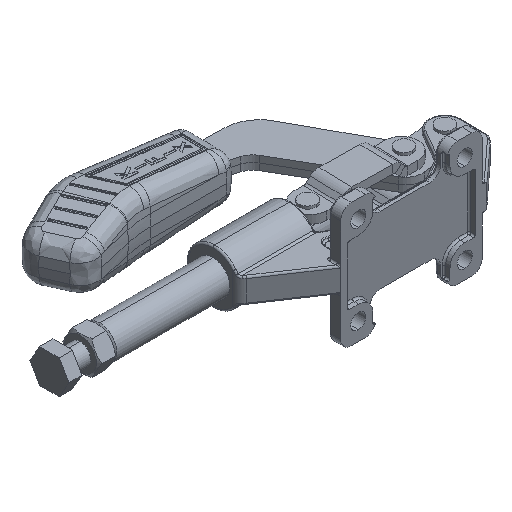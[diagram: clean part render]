
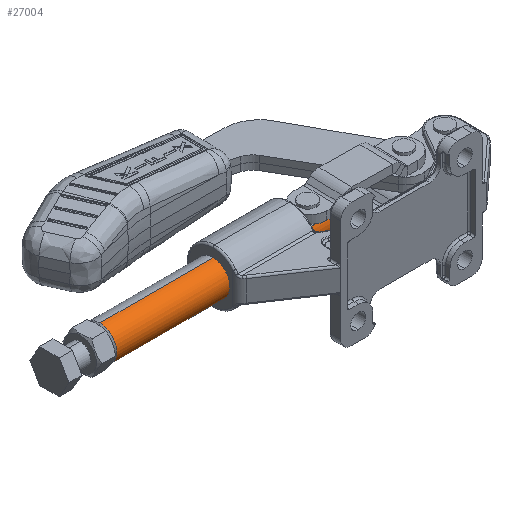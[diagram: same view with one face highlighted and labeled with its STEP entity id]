
A CAD part, isometric view. The second image highlights one B-rep face of the part: STEP entity #27004.
In plain terms, the highlighted cylindrical face has radius 9.525 mm (diameter 19.05 mm), a partial arc.
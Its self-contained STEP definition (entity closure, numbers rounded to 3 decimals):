
#842 = VERTEX_POINT ( 'NONE', #48192 ) ;
#2090 = ORIENTED_EDGE ( 'NONE', *, *, #20624, .T. ) ;
#3998 = VERTEX_POINT ( 'NONE', #10438 ) ;
#5860 = VERTEX_POINT ( 'NONE', #34049 ) ;
#6869 = CIRCLE ( 'NONE', #28747, 9.525 ) ;
#7113 = DIRECTION ( 'NONE',  ( 0., -1., 0. ) ) ;
#7421 = CARTESIAN_POINT ( 'NONE',  ( 0., 22., 0. ) ) ;
#7427 = DIRECTION ( 'NONE',  ( 0., -1., 0. ) ) ;
#7883 = EDGE_LOOP ( 'NONE', ( #28744, #16758, #13734, #17940, #28530, #11037, #20720, #2090 ) ) ;
#9232 = CARTESIAN_POINT ( 'NONE',  ( 0., 2., 0. ) ) ;
#10373 = CARTESIAN_POINT ( 'NONE',  ( 0., 127., 9.525 ) ) ;
#10438 = CARTESIAN_POINT ( 'NONE',  ( -8.013, 22., 5.15 ) ) ;
#11037 = ORIENTED_EDGE ( 'NONE', *, *, #17985, .T. ) ;
#11183 = DIRECTION ( 'NONE',  ( 0., 0., 1. ) ) ;
#12197 = FACE_OUTER_BOUND ( 'NONE', #7883, .T. ) ;
#12602 = CIRCLE ( 'NONE', #42860, 9.525 ) ;
#12973 = DIRECTION ( 'NONE',  ( 0., 0., 1. ) ) ;
#13734 = ORIENTED_EDGE ( 'NONE', *, *, #26950, .T. ) ;
#15124 = CARTESIAN_POINT ( 'NONE',  ( 0., 128., 0. ) ) ;
#15266 = DIRECTION ( 'NONE',  ( 0., -1., 0. ) ) ;
#15513 = AXIS2_PLACEMENT_3D ( 'NONE', #9232, #35313, #12973 ) ;
#15814 = AXIS2_PLACEMENT_3D ( 'NONE', #37554, #15266, #41289 ) ;
#16025 = EDGE_CURVE ( 'NONE', #42499, #34365, #23458, .T. ) ;
#16758 = ORIENTED_EDGE ( 'NONE', *, *, #28526, .T. ) ;
#16760 = VECTOR ( 'NONE', #21646, 1000. ) ;
#17940 = ORIENTED_EDGE ( 'NONE', *, *, #47836, .T. ) ;
#17943 = LINE ( 'NONE', #21487, #16760 ) ;
#17985 = EDGE_CURVE ( 'NONE', #34365, #25550, #44918, .T. ) ;
#20088 = CARTESIAN_POINT ( 'NONE',  ( 0., 22., 0. ) ) ;
#20410 = EDGE_CURVE ( 'NONE', #25550, #3998, #31387, .T. ) ;
#20624 = EDGE_CURVE ( 'NONE', #3998, #32383, #6869, .T. ) ;
#20720 = ORIENTED_EDGE ( 'NONE', *, *, #20410, .T. ) ;
#21487 = CARTESIAN_POINT ( 'NONE',  ( 0., 128., 9.525 ) ) ;
#21646 = DIRECTION ( 'NONE',  ( 0., -1., 0. ) ) ;
#21995 = CARTESIAN_POINT ( 'NONE',  ( -8.013, 2., -5.15 ) ) ;
#22020 = CIRCLE ( 'NONE', #15814, 9.525 ) ;
#23458 = LINE ( 'NONE', #28720, #42090 ) ;
#23836 = DIRECTION ( 'NONE',  ( 0., 0., 1. ) ) ;
#25550 = VERTEX_POINT ( 'NONE', #47742 ) ;
#26129 = VERTEX_POINT ( 'NONE', #10373 ) ;
#26950 = EDGE_CURVE ( 'NONE', #842, #5860, #32036, .T. ) ;
#27004 = ADVANCED_FACE ( 'NONE', ( #12197 ), #39586, .T. ) ;
#27502 = DIRECTION ( 'NONE',  ( 0., 1., 0. ) ) ;
#28526 = EDGE_CURVE ( 'NONE', #26129, #842, #22020, .T. ) ;
#28530 = ORIENTED_EDGE ( 'NONE', *, *, #16025, .T. ) ;
#28720 = CARTESIAN_POINT ( 'NONE',  ( -8.013, 128., -5.15 ) ) ;
#28744 = ORIENTED_EDGE ( 'NONE', *, *, #46246, .F. ) ;
#28747 = AXIS2_PLACEMENT_3D ( 'NONE', #7421, #33535, #11183 ) ;
#31387 = LINE ( 'NONE', #35022, #40124 ) ;
#32036 = LINE ( 'NONE', #40678, #41907 ) ;
#32383 = VERTEX_POINT ( 'NONE', #35487 ) ;
#32460 = DIRECTION ( 'NONE',  ( 0., -1., 0. ) ) ;
#33535 = DIRECTION ( 'NONE',  ( 0., 1., 0. ) ) ;
#34049 = CARTESIAN_POINT ( 'NONE',  ( 0., 22., -9.525 ) ) ;
#34365 = VERTEX_POINT ( 'NONE', #21995 ) ;
#35022 = CARTESIAN_POINT ( 'NONE',  ( -8.013, 128., 5.15 ) ) ;
#35313 = DIRECTION ( 'NONE',  ( 0., 1., 0. ) ) ;
#35487 = CARTESIAN_POINT ( 'NONE',  ( 0., 22., 9.525 ) ) ;
#37554 = CARTESIAN_POINT ( 'NONE',  ( 0., 127., 0. ) ) ;
#38845 = AXIS2_PLACEMENT_3D ( 'NONE', #15124, #7427, #41141 ) ;
#39586 = CYLINDRICAL_SURFACE ( 'NONE', #38845, 9.525 ) ;
#40124 = VECTOR ( 'NONE', #27502, 1000. ) ;
#40678 = CARTESIAN_POINT ( 'NONE',  ( 0., 128., -9.525 ) ) ;
#40873 = CARTESIAN_POINT ( 'NONE',  ( -8.013, 22., -5.15 ) ) ;
#41141 = DIRECTION ( 'NONE',  ( 0., 0., -1. ) ) ;
#41289 = DIRECTION ( 'NONE',  ( 0., 0., 1. ) ) ;
#41907 = VECTOR ( 'NONE', #7113, 1000. ) ;
#42090 = VECTOR ( 'NONE', #32460, 1000. ) ;
#42499 = VERTEX_POINT ( 'NONE', #40873 ) ;
#42860 = AXIS2_PLACEMENT_3D ( 'NONE', #20088, #46140, #23836 ) ;
#44918 = CIRCLE ( 'NONE', #15513, 9.525 ) ;
#46140 = DIRECTION ( 'NONE',  ( 0., 1., 0. ) ) ;
#46246 = EDGE_CURVE ( 'NONE', #26129, #32383, #17943, .T. ) ;
#47742 = CARTESIAN_POINT ( 'NONE',  ( -8.013, 2., 5.15 ) ) ;
#47836 = EDGE_CURVE ( 'NONE', #5860, #42499, #12602, .T. ) ;
#48192 = CARTESIAN_POINT ( 'NONE',  ( 0., 127., -9.525 ) ) ;
